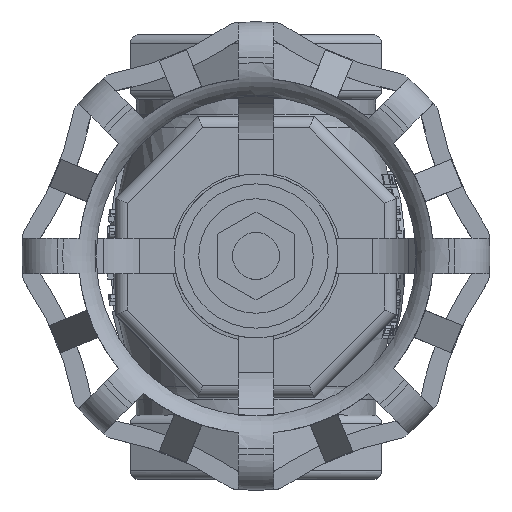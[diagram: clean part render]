
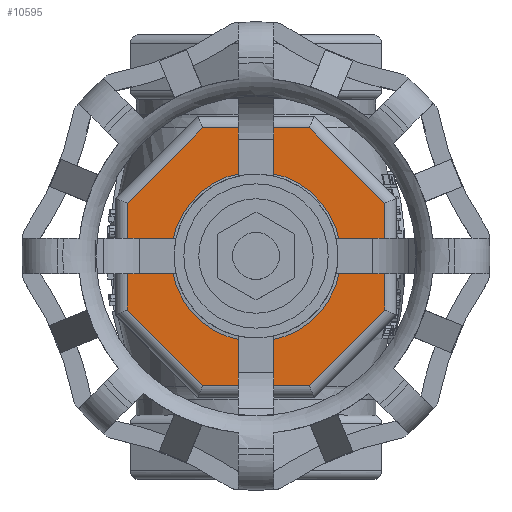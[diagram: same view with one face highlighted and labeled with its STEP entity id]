
A CAD part, top view. The second image highlights one B-rep face of the part: STEP entity #10595.
In plain terms, the highlighted planar face has unit normal (0, 0, 1).
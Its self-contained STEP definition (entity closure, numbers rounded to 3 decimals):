
#849=LINE('',#15684,#1634);
#850=LINE('',#15686,#1635);
#851=LINE('',#15688,#1636);
#852=LINE('',#15690,#1637);
#853=LINE('',#15692,#1638);
#854=LINE('',#15694,#1639);
#855=LINE('',#15696,#1640);
#856=LINE('',#15697,#1641);
#1634=VECTOR('',#12865,18.225);
#1635=VECTOR('',#12866,18.225);
#1636=VECTOR('',#12867,18.225);
#1637=VECTOR('',#12868,18.225);
#1638=VECTOR('',#12869,18.225);
#1639=VECTOR('',#12870,18.225);
#1640=VECTOR('',#12871,18.225);
#1641=VECTOR('',#12872,18.225);
#2214=PLANE('',#11313);
#2704=FACE_BOUND('',#3466,.T.);
#2875=FACE_OUTER_BOUND('',#3465,.T.);
#3465=EDGE_LOOP('',(#7716,#7717,#7718,#7719,#7720,#7721,#7722,#7723));
#3466=EDGE_LOOP('',(#7724));
#4072=CIRCLE('',#11312,14.5);
#4667=VERTEX_POINT('',#15679);
#4668=VERTEX_POINT('',#15682);
#4669=VERTEX_POINT('',#15683);
#4670=VERTEX_POINT('',#15685);
#4671=VERTEX_POINT('',#15687);
#4672=VERTEX_POINT('',#15689);
#4673=VERTEX_POINT('',#15691);
#4674=VERTEX_POINT('',#15693);
#4675=VERTEX_POINT('',#15695);
#5861=EDGE_CURVE('',#4667,#4667,#4072,.T.);
#5862=EDGE_CURVE('',#4668,#4669,#849,.T.);
#5863=EDGE_CURVE('',#4670,#4668,#850,.T.);
#5864=EDGE_CURVE('',#4671,#4670,#851,.T.);
#5865=EDGE_CURVE('',#4672,#4671,#852,.T.);
#5866=EDGE_CURVE('',#4673,#4672,#853,.T.);
#5867=EDGE_CURVE('',#4674,#4673,#854,.T.);
#5868=EDGE_CURVE('',#4675,#4674,#855,.T.);
#5869=EDGE_CURVE('',#4669,#4675,#856,.T.);
#7716=ORIENTED_EDGE('',*,*,#5862,.F.);
#7717=ORIENTED_EDGE('',*,*,#5863,.F.);
#7718=ORIENTED_EDGE('',*,*,#5864,.F.);
#7719=ORIENTED_EDGE('',*,*,#5865,.F.);
#7720=ORIENTED_EDGE('',*,*,#5866,.F.);
#7721=ORIENTED_EDGE('',*,*,#5867,.F.);
#7722=ORIENTED_EDGE('',*,*,#5868,.F.);
#7723=ORIENTED_EDGE('',*,*,#5869,.F.);
#7724=ORIENTED_EDGE('',*,*,#5861,.F.);
#10595=ADVANCED_FACE('',(#2875,#2704),#2214,.T.);
#11312=AXIS2_PLACEMENT_3D('',#15680,#12861,#12862);
#11313=AXIS2_PLACEMENT_3D('',#15681,#12863,#12864);
#12861=DIRECTION('center_axis',(0.,0.,1.));
#12862=DIRECTION('ref_axis',(0.,-1.,0.));
#12863=DIRECTION('center_axis',(0.,0.,1.));
#12864=DIRECTION('ref_axis',(1.,0.,0.));
#12865=DIRECTION('',(0.707,-0.707,0.));
#12866=DIRECTION('',(1.,0.,0.));
#12867=DIRECTION('',(0.707,0.707,0.));
#12868=DIRECTION('',(0.,1.,0.));
#12869=DIRECTION('',(-0.707,0.707,0.));
#12870=DIRECTION('',(-1.,0.,0.));
#12871=DIRECTION('',(-0.707,-0.707,0.));
#12872=DIRECTION('',(0.,-1.,0.));
#15679=CARTESIAN_POINT('',(0.,14.5,44.5));
#15680=CARTESIAN_POINT('Origin',(0.,0.,44.5));
#15681=CARTESIAN_POINT('Origin',(0.,19.3,44.5));
#15682=CARTESIAN_POINT('',(9.113,22.,44.5));
#15683=CARTESIAN_POINT('',(22.,9.113,44.5));
#15684=CARTESIAN_POINT('',(7.217,23.896,44.5));
#15685=CARTESIAN_POINT('',(-9.113,22.,44.5));
#15686=CARTESIAN_POINT('',(-4.971,22.,44.5));
#15687=CARTESIAN_POINT('',(-22.,9.113,44.5));
#15688=CARTESIAN_POINT('',(-14.246,16.867,44.5));
#15689=CARTESIAN_POINT('',(-22.,-9.113,44.5));
#15690=CARTESIAN_POINT('',(-22.,4.679,44.5));
#15691=CARTESIAN_POINT('',(-9.113,-22.,44.5));
#15692=CARTESIAN_POINT('',(-16.867,-14.246,44.5));
#15693=CARTESIAN_POINT('',(9.113,-22.,44.5));
#15694=CARTESIAN_POINT('',(4.971,-22.,44.5));
#15695=CARTESIAN_POINT('',(22.,-9.113,44.5));
#15696=CARTESIAN_POINT('',(23.896,-7.217,44.5));
#15697=CARTESIAN_POINT('',(22.,14.621,44.5));
